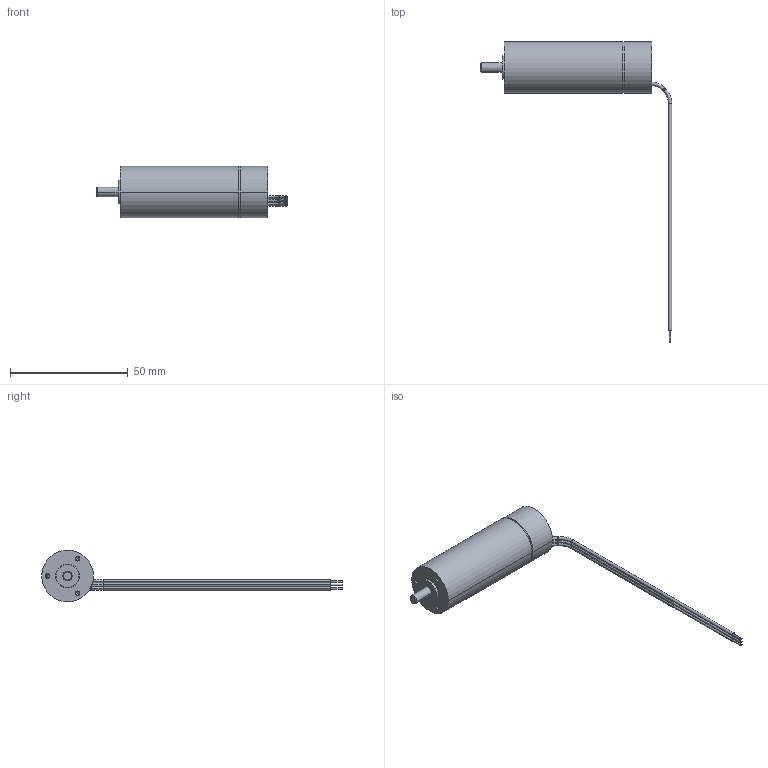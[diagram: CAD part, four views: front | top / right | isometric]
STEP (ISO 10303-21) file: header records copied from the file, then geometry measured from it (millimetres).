
FILE_DESCRIPTION((''),'2;1');
FILE_NAME('1134209','2010-03-10T',('MMAGBRD'),(''),'PRO/ENGINEER BY PARAMETRIC TECHNOLOGY CORPORATION, 2009230','PRO/ENGINEER BY PARAMETRIC TECHNOLOGY CORPORATION, 2009230','');
FILE_SCHEMA(('CONFIG_CONTROL_DESIGN'));
Length unit declared in the file: millimetre
Products named in the file (1): 1134209
Bounding box: 81.43 x 127.83 x 22 mm (x, y, z)
Volume: 24482.4 mm3; surface area: 7120.7 mm2
Topology: 1 solids, 4 shells, 94 faces, 208 edges, 125 vertices
Faces by surface type: cylinder 50, plane 18, torus 18, cone 8
Entity records: 2666 total; most frequent: DIRECTION 518, CARTESIAN_POINT 476, ORIENTED_EDGE 392, AXIS2_PLACEMENT_3D 227, EDGE_CURVE 202, CIRCLE 132, VERTEX_POINT 125, EDGE_LOOP 109
